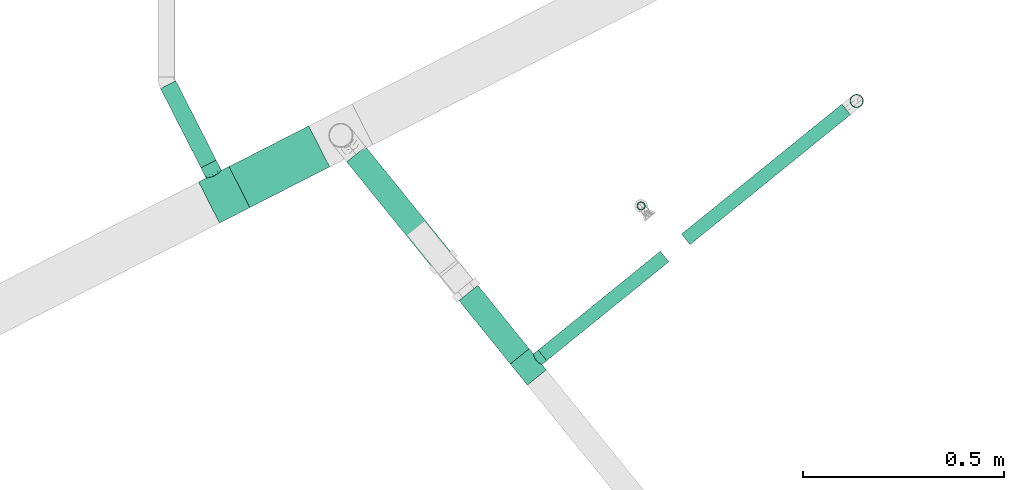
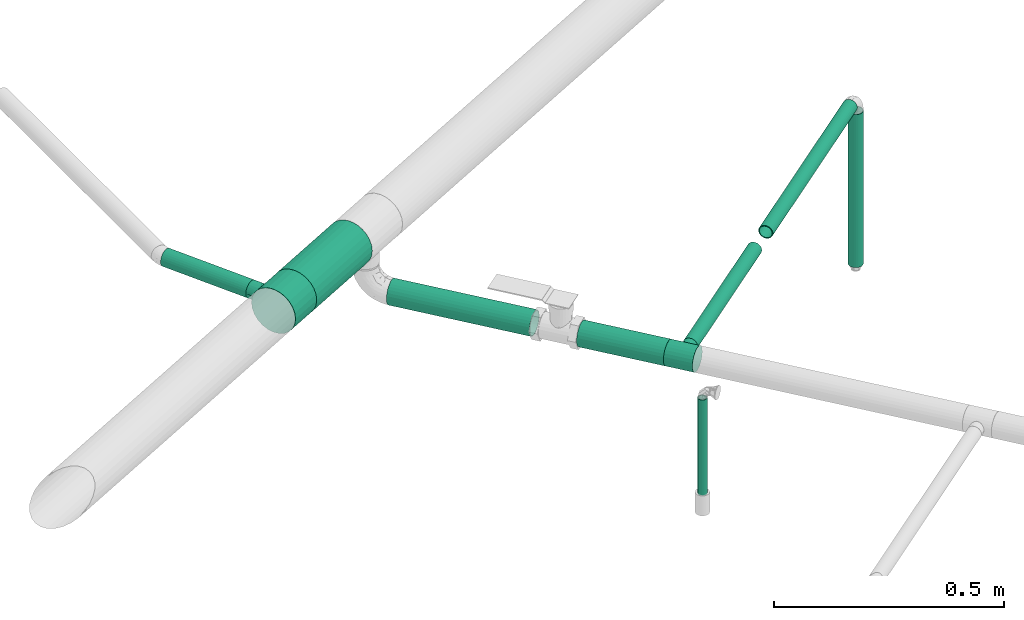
# One storey, part 20 of 94: 8 flow segments, 2 flow fittings.
"""IFC2X3 building model written with IfcOpenShell, lengths in millimetres."""

from ifc_helpers import new_model, entity, si_unit, converted_unit, derived_unit, direction, frame, origin_with_axes, origin_2d_with_axis, place, context, subcontext, project, spatial, hollow_circle, extrude, open_shell, surface_model, source, transform, mapped, type_object, element, save


model = new_model("IFC2X3")

# Units and contexts
model_context = context("Model", 3, precision=0.01, world=frame((0.0, 4.29681676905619e-09, 0.0)), true_north=direction((4.01073788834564e-13, 1.0)))
plan_context = context("Plan", 3, precision=0.01, world=frame((0.0, 4.29681676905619e-09, 0.0)), true_north=direction((4.01073788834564e-13, 1.0)))
body_context = subcontext(model_context, "Body", "Model", "MODEL_VIEW")
ifc_project = project(units=[converted_unit("PLANEANGLEUNIT", "DEGREE", entity("IfcPositiveLengthMeasure", 0.0174532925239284), si_unit("PLANEANGLEUNIT", "RADIAN"), dimensions=[0, 0, 0, 0, 0, 0, 0]), si_unit("AREAUNIT", "SQUARE_METRE"), si_unit("LENGTHUNIT", "METRE", prefix="MILLI"), si_unit("MASSUNIT", "GRAM", prefix="KILO"), si_unit("POWERUNIT", "WATT"), si_unit("PRESSUREUNIT", "PASCAL", prefix="KILO"), si_unit("FORCEUNIT", "NEWTON", prefix="KILO"), si_unit("ELECTRICVOLTAGEUNIT", "VOLT"), si_unit("ELECTRICCURRENTUNIT", "AMPERE"), si_unit("THERMODYNAMICTEMPERATUREUNIT", "DEGREE_CELSIUS"), si_unit("TIMEUNIT", "SECOND"), si_unit("VOLUMEUNIT", "CUBIC_METRE"), derived_unit("LINEARVELOCITYUNIT", [(si_unit("LENGTHUNIT", "METRE"), 1), (si_unit("TIMEUNIT", "SECOND"), -1)]), derived_unit("VOLUMETRICFLOWRATEUNIT", [(si_unit("VOLUMEUNIT", "CUBIC_METRE"), 1), (si_unit("TIMEUNIT", "SECOND"), -1)]), derived_unit("THERMALTRANSMITTANCEUNIT", [(si_unit("POWERUNIT", "WATT"), 1), (si_unit("THERMODYNAMICTEMPERATUREUNIT", "KELVIN"), -1), (si_unit("AREAUNIT", "SQUARE_METRE"), -1)]), derived_unit("SOUNDPRESSUREUNIT", [(si_unit("PRESSUREUNIT", "PASCAL"), 1)])], contexts=[model_context, plan_context])

# Site, building, storey
site_placement = place(None, frame((0.0, -4.29681676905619e-09, 0.0), z_axis=(0.0, 0.0, 1.0), x_axis=(1.0, 0.0, 0.0)))
site = spatial("IfcSite", under=ifc_project, at=site_placement, CompositionType="ELEMENT")
building_placement = place(site_placement, frame((0.0, 4.29681676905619e-09, 0.0), z_axis=(0.0, 0.0, 1.0), x_axis=(1.0, 0.0, 0.0)))
building = spatial("IfcBuilding", under=site, at=building_placement, Name="mc-building", CompositionType="ELEMENT")
storey_placement = place(building_placement, frame((0.0, 0.0, 210900.0), z_axis=(0.0, 0.0, 1.0), x_axis=(1.0, 0.0, 0.0)))
storey = spatial("IfcBuildingStorey", under=building, at=storey_placement, Name="Nivå F", CompositionType="ELEMENT", Elevation=210900.0)

# Flow fittings
pipe_fitting_type = type_object("IfcPipeFittingType", Name="magi_pipe_fe_tee_centric_90_NOR", PredefinedType="JUNCTION")
shared_shape_1 = source(origin_with_axes(), body_context, "Body", "SurfaceModel", [
    surface_model("IfcShellBasedSurfaceModel", [(-33.8, 15.1, -26.15397), (-33.8, 7.81634, -29.17096), (-33.8, 0.0, -30.2), (-33.8, 29.17096, -7.81634), (-33.8, 26.15397, -15.1), (-33.8, 21.35462, -21.35462), (-33.8, 30.2, 0.0), (-33.8, -30.2, 0.0), (-33.8, -15.1, -26.15397), (-33.8, -21.35462, -21.35462), (-33.8, -7.81634, -29.17096), (-33.8, -26.15397, -15.1), (-33.8, -29.17096, -7.81634), (-33.8, 26.15397, 15.1), (-33.8, 29.17096, 7.81634), (-33.8, 15.1, 26.15397), (-33.8, -21.35462, 21.35462), (-33.8, 21.35462, 21.35462), (-33.8, 7.81634, 29.17096), (-33.8, -29.17096, 7.81634), (-33.8, -26.15397, 15.1), (-33.8, -7.81634, 29.17096), (-33.8, 0.0, 30.2), (-33.8, -15.1, 26.15397), (33.8, 29.17096, -7.81634), (33.8, 0.0, -30.2), (33.8, 7.81634, -29.17096), (33.8, 21.35462, -21.35462), (33.8, 15.1, -26.15397), (33.8, 26.15397, -15.1), (33.8, -30.2, 0.0), (33.8, -7.81634, -29.17096), (33.8, -21.35462, -21.35462), (33.8, -15.1, -26.15397), (33.8, -29.17096, -7.81634), (33.8, -26.15397, -15.1), (33.8, 30.2, 0.0), (33.8, 29.17096, 7.81634), (33.8, 26.15397, 15.1), (33.8, -29.17096, 7.81634), (33.8, 15.1, 26.15397), (33.8, 7.81634, 29.17096), (33.8, 21.35462, 21.35462), (33.8, -21.35462, 21.35462), (33.8, -26.15397, 15.1), (33.8, -15.1, 26.15397), (33.8, 0.0, 30.2), (33.8, -7.81634, 29.17096), (33.8, -29.68548, 3.90817), (15.846, -29.62306, 5.87488), (16.373, -29.91153, 2.93744), (12.91037, -28.16217, 10.90561), (2.99213, -25.2068, 16.63301), (16.9, -30.2, 0.0), (33.8, -27.66246, 11.45817), (8.50854, -26.43531, 14.60187), (-8.51006, -26.43579, 14.60099), (-33.8, -27.66246, 11.45817), (-12.91447, -28.16405, 10.90075), (-15.84655, -29.62335, 5.87341), (-33.8, -29.68548, 3.90817), (-16.37327, -29.91168, 2.93671), (-16.9, -30.2, 0.0), (-2.99705, -25.20739, 16.63213), (2.99213, -25.2068, -16.63301), (-16.37327, -29.91168, -2.93671), (8.50854, -26.43531, -14.60187), (33.8, -27.66246, -11.45817), (16.373, -29.91153, -2.93744), (-33.8, -29.68548, -3.90817), (-15.84655, -29.62335, -5.87341), (15.846, -29.62306, -5.87488), (12.91037, -28.16217, -10.90561), (33.8, -29.68548, -3.90817), (-2.99705, -25.20739, -16.63213), (-8.51006, -26.43579, -14.60099), (-12.91447, -28.16405, -10.90075), (-33.8, -27.66246, -11.45817), (4.37404, -45.3, -16.32415), (-16.9, -45.3, 0.0), (0.0, -45.3, -16.9), (14.63583, -45.3, -8.45), (8.45, -45.3, -14.63583), (16.32415, -45.3, -4.37404), (11.9501, -45.3, -11.9501), (-11.9501, -45.3, -11.9501), (-8.45, -45.3, -14.63583), (-4.37404, -45.3, -16.32415), (-14.63583, -45.3, -8.45), (-16.32415, -45.3, -4.37404), (16.9, -45.3, 0.0), (8.45, -45.3, 14.63583), (16.32415, -45.3, 4.37404), (14.63583, -45.3, 8.45), (-8.45, -45.3, 14.63583), (11.9501, -45.3, 11.9501), (4.37404, -45.3, 16.32415), (-16.32415, -45.3, 4.37404), (-11.9501, -45.3, 11.9501), (-14.63583, -45.3, 8.45), (0.0, -45.3, 16.9), (-4.37404, -45.3, 16.32415), (-5.75355, -25.82159, 15.61656), (-0.00246, -25.20709, 16.63257), (5.75034, -25.82105, 15.61744), (5.75034, -25.82105, -15.61744), (-0.00246, -25.20709, -16.63257), (-5.75355, -25.82159, -15.61656)], [open_shell([[[0, 1, 2]], [[3, 0, 2]], [[0, 3, 4]], [[5, 0, 4]], [[6, 2, 7]], [[8, 9, 10]], [[9, 2, 10]], [[11, 12, 9]], [[7, 9, 12]], [[9, 7, 2]], [[6, 3, 2]], [[13, 14, 6]], [[7, 15, 13]], [[7, 16, 15]], [[17, 13, 15]], [[18, 15, 16]], [[19, 20, 7]], [[7, 20, 16]], [[21, 22, 23]], [[16, 23, 22]], [[16, 22, 18]], [[7, 13, 6]], [[24, 25, 26]], [[27, 26, 28]], [[29, 24, 26]], [[29, 26, 27]], [[25, 24, 30]], [[31, 32, 33]], [[32, 31, 34]], [[32, 34, 35]], [[34, 31, 30]], [[31, 25, 30]], [[24, 36, 30]], [[36, 37, 38]], [[39, 36, 38]], [[40, 41, 38]], [[40, 38, 42]], [[43, 38, 41]], [[39, 43, 44]], [[39, 38, 43]], [[45, 46, 47]], [[46, 45, 43]], [[41, 46, 43]], [[36, 39, 30]], [[48, 39, 49]], [[30, 48, 50]], [[39, 51, 49]], [[44, 43, 52]], [[30, 50, 53]], [[51, 54, 55]], [[52, 55, 44]], [[48, 49, 50]], [[43, 16, 52]], [[55, 54, 44]], [[56, 57, 58]], [[59, 60, 61]], [[62, 61, 7]], [[59, 58, 19]], [[56, 63, 20]], [[51, 39, 54]], [[20, 57, 56]], [[20, 63, 16]], [[58, 57, 19]], [[63, 52, 16]], [[7, 61, 60]], [[59, 19, 60]], [[43, 23, 16]], [[22, 47, 46]], [[21, 45, 47]], [[18, 46, 41]], [[38, 37, 14]], [[17, 40, 42]], [[13, 42, 38]], [[41, 40, 15]], [[6, 37, 36]], [[23, 45, 21]], [[21, 47, 22]], [[18, 22, 46]], [[41, 15, 18]], [[15, 40, 17]], [[13, 17, 42]], [[14, 13, 38]], [[37, 6, 14]], [[45, 23, 43]], [[4, 24, 29]], [[3, 36, 24]], [[5, 29, 27]], [[25, 31, 10]], [[1, 28, 26]], [[2, 26, 25]], [[27, 28, 0]], [[8, 31, 33]], [[6, 36, 3]], [[3, 24, 4]], [[5, 4, 29]], [[27, 0, 5]], [[0, 28, 1]], [[2, 1, 26]], [[10, 2, 25]], [[31, 8, 10]], [[33, 9, 8]], [[32, 35, 64]], [[7, 65, 62]], [[66, 64, 35]], [[67, 66, 35]], [[32, 64, 9]], [[53, 68, 30]], [[69, 70, 65]], [[71, 72, 34]], [[71, 73, 68]], [[66, 67, 72]], [[34, 72, 67]], [[74, 75, 11]], [[76, 12, 77]], [[11, 9, 74]], [[76, 77, 75]], [[74, 9, 64]], [[76, 70, 12]], [[71, 34, 73]], [[70, 69, 12]], [[65, 7, 69]], [[30, 68, 73]], [[77, 11, 75]], [[32, 9, 33]], [[78, 79, 80]], [[81, 78, 82]], [[81, 83, 78]], [[81, 82, 84]], [[79, 78, 83]], [[80, 85, 86]], [[86, 87, 80]], [[88, 79, 89]], [[85, 80, 88]], [[79, 88, 80]], [[83, 90, 79]], [[91, 90, 92]], [[91, 92, 93]], [[94, 79, 91]], [[91, 93, 95]], [[94, 91, 96]], [[97, 98, 99]], [[98, 97, 94]], [[94, 100, 101]], [[97, 79, 94]], [[96, 100, 94]], [[91, 79, 90]], [[97, 61, 79]], [[58, 99, 98]], [[97, 99, 59]], [[98, 94, 56]], [[61, 62, 79]], [[59, 99, 58]], [[101, 63, 102]], [[56, 58, 98]], [[100, 52, 103]], [[91, 104, 96]], [[100, 96, 52]], [[50, 49, 92]], [[50, 90, 53]], [[104, 91, 55]], [[102, 94, 101]], [[102, 56, 94]], [[100, 63, 101]], [[97, 59, 61]], [[55, 91, 95]], [[95, 51, 55]], [[52, 96, 104]], [[92, 49, 93]], [[90, 50, 92]], [[93, 49, 51]], [[93, 51, 95]], [[103, 63, 100]], [[83, 68, 90]], [[72, 81, 84]], [[83, 81, 71]], [[84, 82, 66]], [[68, 53, 90]], [[71, 81, 72]], [[78, 64, 105]], [[66, 72, 84]], [[80, 74, 106]], [[86, 107, 87]], [[65, 70, 89]], [[105, 82, 78]], [[105, 66, 82]], [[75, 86, 85]], [[83, 71, 68]], [[70, 88, 89]], [[65, 79, 62]], [[85, 88, 76]], [[80, 64, 78]], [[87, 107, 74]], [[74, 80, 87]], [[75, 107, 86]], [[75, 85, 76]], [[76, 88, 70]], [[79, 65, 89]], [[106, 64, 80]]])]),
])
flow_fitting_1_placement = place(storey_placement, frame((724719.65026, 444800.56467, 3500.0), z_axis=(0.0, 0.0, 1.0), x_axis=(-0.629320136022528, 0.777146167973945, 0.0)))
element("IfcFlowFitting", 1, at=flow_fitting_1_placement, inside=storey, type_object=pipe_fitting_type, Name="magi_pipe_fe_tee_centric_90_NOR", context=body_context, shape_type="MappedRepresentation", body=[
    mapped(shared_shape_1, transform((0.0, 0.0, 0.0), scale=1.0)),
])
shared_shape_2 = source(origin_with_axes(), body_context, "Body", "SurfaceModel", [
    surface_model("IfcShellBasedSurfaceModel", [(-42.4, 0.0, -57.2), (-42.4, -14.80445, -55.25096), (-42.4, 14.80445, -55.25096), (-42.4, 28.6, -49.53665), (-42.4, 40.44651, -40.44651), (-42.4, 55.25096, -14.80445), (-42.4, 49.53665, -28.6), (-42.4, -28.6, -49.53665), (-42.4, -40.44651, -40.44651), (-42.4, -49.53665, -28.6), (-42.4, -55.25096, -14.80445), (-42.4, -57.2, 0.0), (-42.4, -28.6, 49.53665), (-42.4, 49.53665, 28.6), (-42.4, 55.25096, 14.80445), (-42.4, 57.2, 0.0), (-42.4, 40.44651, 40.44651), (-42.4, 14.80445, 55.25096), (-42.4, 28.6, 49.53665), (-42.4, 0.0, 57.2), (-42.4, -55.25096, 14.80445), (-42.4, -49.53665, 28.6), (-42.4, -40.44651, 40.44651), (-42.4, -14.80445, 55.25096), (42.4, 14.80445, -55.25096), (42.4, -14.80445, -55.25096), (42.4, 0.0, -57.2), (42.4, 40.44651, -40.44651), (42.4, 28.6, -49.53665), (42.4, 49.53665, -28.6), (42.4, 55.25096, -14.80445), (42.4, -40.44651, -40.44651), (42.4, -28.6, -49.53665), (42.4, -49.53665, -28.6), (42.4, -55.25096, -14.80445), (42.4, -57.2, 0.0), (42.4, -28.6, 49.53665), (42.4, 57.2, 0.0), (42.4, 55.25096, 14.80445), (42.4, 49.53665, 28.6), (42.4, 0.0, 57.2), (42.4, 28.6, 49.53665), (42.4, 40.44651, 40.44651), (42.4, 14.80445, 55.25096), (42.4, -49.53665, 28.6), (42.4, -55.25096, 14.80445), (42.4, -40.44651, 40.44651), (42.4, -14.80445, 55.25096), (42.4, -56.22548, 7.40222), (21.2, -57.2, 0.0), (16.22454, -55.5485, 13.64567), (19.90462, -56.73265, 7.29699), (3.70812, -53.25552, 20.87319), (10.63496, -54.18028, 18.33951), (-16.23029, -55.55018, 13.63883), (-42.4, -56.22548, 7.40222), (-19.90518, -56.73285, 7.29545), (-21.2, -57.2, 0.0), (-10.63671, -54.18062, 18.33849), (-3.71383, -53.25592, 20.87217), (-42.4, -56.22548, -7.40222), (-19.90518, -56.73285, -7.29545), (16.22454, -55.5485, -13.64567), (42.4, -56.22548, -7.40222), (19.90462, -56.73265, -7.29699), (10.63496, -54.18028, -18.33951), (3.70812, -53.25552, -20.87319), (-3.71383, -53.25592, -20.87217), (-10.63671, -54.18062, -18.33849), (-16.23029, -55.55018, -13.63883), (14.99066, -85.8, -14.99066), (0.0, -85.8, -21.2), (5.48696, -85.8, -20.47763), (10.6, -85.8, -18.35974), (18.35974, -85.8, -10.6), (20.47763, -85.8, -5.48696), (-21.2, -85.8, 0.0), (-10.6, -85.8, 18.35974), (-5.48696, -85.8, -20.47763), (-14.99066, -85.8, -14.99066), (-10.6, -85.8, -18.35974), (-18.35974, -85.8, -10.6), (-20.47763, -85.8, -5.48696), (20.47763, -85.8, 5.48696), (18.35974, -85.8, 10.6), (10.6, -85.8, 18.35974), (14.99066, -85.8, 14.99066), (0.0, -85.8, 21.2), (5.48696, -85.8, 20.47763), (-14.99066, -85.8, 14.99066), (-18.35974, -85.8, 10.6), (-20.47763, -85.8, 5.48696), (-5.48696, -85.8, 20.47763), (21.2, -85.8, 0.0), (-20.55259, -56.96643, 3.64772), (-7.17527, -53.71827, 19.60533), (7.17154, -53.7179, 19.60635), (20.55231, -56.96633, 3.64849), (-0.00286, -53.25572, 20.87268), (20.55231, -56.96633, -3.64849), (7.17154, -53.7179, -19.60635), (-0.00286, -53.25572, -20.87268), (-7.17527, -53.71827, -19.60533), (-20.55259, -56.96643, -3.64772)], [open_shell([[[0, 1, 2]], [[3, 2, 4]], [[5, 6, 4]], [[2, 5, 4]], [[5, 2, 1]], [[7, 8, 1]], [[9, 1, 8]], [[10, 11, 9]], [[1, 9, 11]], [[12, 1, 11]], [[12, 5, 1]], [[13, 14, 15]], [[16, 13, 15]], [[17, 18, 16]], [[15, 17, 16]], [[19, 17, 15]], [[20, 21, 11]], [[21, 22, 11]], [[23, 19, 12]], [[22, 12, 11]], [[12, 19, 15]], [[15, 5, 12]], [[24, 25, 26]], [[27, 24, 28]], [[27, 29, 30]], [[27, 30, 24]], [[25, 24, 30]], [[25, 31, 32]], [[25, 30, 31]], [[30, 33, 31]], [[30, 34, 33]], [[35, 34, 30]], [[30, 36, 35]], [[37, 38, 39]], [[30, 39, 36]], [[40, 39, 41]], [[41, 39, 42]], [[40, 41, 43]], [[35, 44, 45]], [[46, 44, 35]], [[36, 40, 47]], [[35, 36, 46]], [[39, 40, 36]], [[37, 39, 30]], [[35, 48, 49]], [[50, 51, 48]], [[48, 45, 50]], [[52, 44, 21]], [[44, 53, 45]], [[53, 44, 52]], [[45, 53, 50]], [[44, 46, 22]], [[54, 55, 56]], [[57, 55, 11]], [[57, 56, 55]], [[54, 20, 55]], [[58, 59, 21]], [[58, 21, 20]], [[59, 52, 21]], [[44, 22, 21]], [[58, 20, 54]], [[49, 48, 51]], [[46, 12, 22]], [[19, 47, 40]], [[23, 36, 47]], [[17, 40, 43]], [[39, 38, 14]], [[16, 41, 42]], [[13, 42, 39]], [[43, 41, 18]], [[15, 38, 37]], [[12, 36, 23]], [[23, 47, 19]], [[17, 19, 40]], [[43, 18, 17]], [[18, 41, 16]], [[13, 16, 42]], [[14, 13, 39]], [[38, 15, 14]], [[36, 12, 46]], [[15, 37, 30]], [[30, 29, 5]], [[27, 6, 29]], [[1, 26, 25]], [[2, 28, 24]], [[26, 0, 24]], [[28, 4, 27]], [[32, 7, 25]], [[57, 60, 61]], [[6, 5, 29]], [[15, 30, 5]], [[27, 4, 6]], [[4, 28, 3]], [[3, 28, 2]], [[0, 2, 24]], [[1, 0, 26]], [[25, 7, 1]], [[32, 8, 7]], [[9, 31, 33]], [[62, 63, 64]], [[65, 66, 33]], [[33, 34, 65]], [[9, 33, 66]], [[35, 49, 63]], [[62, 34, 63]], [[64, 63, 49]], [[34, 62, 65]], [[67, 68, 9]], [[8, 31, 9]], [[68, 10, 9]], [[9, 66, 67]], [[61, 60, 69]], [[60, 10, 69]], [[60, 57, 11]], [[69, 10, 68]], [[31, 8, 32]], [[70, 71, 72]], [[70, 72, 73]], [[70, 74, 75]], [[70, 75, 71]], [[76, 71, 77]], [[78, 79, 80]], [[78, 71, 79]], [[81, 76, 82]], [[79, 71, 81]], [[71, 76, 81]], [[71, 75, 77]], [[83, 84, 75]], [[84, 85, 75]], [[85, 77, 75]], [[85, 84, 86]], [[87, 85, 88]], [[76, 89, 90]], [[91, 76, 90]], [[77, 87, 92]], [[77, 89, 76]], [[85, 87, 77]], [[75, 93, 83]], [[91, 94, 76]], [[87, 59, 92]], [[95, 77, 92]], [[95, 58, 77]], [[85, 96, 88]], [[91, 56, 94]], [[97, 93, 49]], [[56, 91, 90]], [[94, 57, 76]], [[56, 90, 54]], [[77, 58, 89]], [[92, 59, 95]], [[89, 58, 54]], [[89, 54, 90]], [[87, 52, 98]], [[85, 53, 96]], [[86, 53, 85]], [[51, 84, 83]], [[86, 84, 50]], [[52, 87, 88]], [[96, 52, 88]], [[98, 59, 87]], [[53, 86, 50]], [[50, 84, 51]], [[93, 97, 83]], [[97, 51, 83]], [[75, 99, 93]], [[70, 62, 74]], [[100, 65, 73]], [[75, 64, 99]], [[74, 64, 75]], [[65, 70, 73]], [[99, 49, 93]], [[64, 74, 62]], [[72, 66, 100]], [[65, 62, 70]], [[71, 67, 101]], [[80, 102, 78]], [[103, 76, 57]], [[102, 80, 68]], [[100, 73, 72]], [[103, 61, 82]], [[79, 68, 80]], [[61, 81, 82]], [[69, 79, 81]], [[67, 71, 78]], [[102, 67, 78]], [[101, 66, 71]], [[68, 79, 69]], [[69, 81, 61]], [[76, 103, 82]], [[71, 66, 72]]])]),
])
flow_fitting_2_placement = place(storey_placement, frame((723964.05272, 445228.24569, 3650.0), z_axis=(0.0, 0.0, 1.0), x_axis=(-0.891006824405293, -0.453989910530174, 0.0)))
element("IfcFlowFitting", 2, at=flow_fitting_2_placement, inside=storey, type_object=pipe_fitting_type, Name="magi_pipe_fe_tee_centric_90_NOR", context=body_context, shape_type="MappedRepresentation", body=[
    mapped(shared_shape_2, transform((0.0, 0.0, 0.0), scale=1.0)),
])

# Flow segments
pipe_segment_type = type_object("IfcPipeSegmentType", Name="Stålrør normaltykke", PredefinedType="RIGIDSEGMENT")
shared_shape_3 = source(origin_with_axes(), body_context, "Body", "SweptSolid", [
    extrude(hollow_circle(Radius=57.1, WallThickness=2.0, at=origin_2d_with_axis()), frame((0.0, 0.0, 0.0), z_axis=(1.0, 0.0, 0.0), x_axis=(0.0, 1.0, 0.0)), (0.0, 0.0, 1.0), 222.4),
])
flow_segment_1_placement = place(storey_placement, frame((724001.83139, 445247.49489, 3650.0), z_axis=(0.0, 0.0, 1.0), x_axis=(0.891006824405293, 0.453989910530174, 0.0)))
element("IfcFlowSegment", 3, at=flow_segment_1_placement, inside=storey, type_object=pipe_segment_type, Name="Stålrør normaltykke", context=body_context, shape_type="MappedRepresentation", body=[
    mapped(shared_shape_3, transform((0.0, 0.0, 0.0), scale=1.0)),
])
shared_shape_4 = source(origin_with_axes(), body_context, "Body", "SweptSolid", [
    extrude(hollow_circle(Radius=21.2, WallThickness=2.0, at=origin_2d_with_axis()), frame((0.0, 0.0, 0.0), z_axis=(1.0, 0.0, 0.0), x_axis=(0.0, 1.0, 0.0)), (0.0, 0.0, 1.0), 221.2),
])
flow_segment_2_placement = place(storey_placement, frame((723925.10033, 445304.69405, 3650.0), z_axis=(0.0, 0.0, 1.0), x_axis=(-0.453989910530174, 0.891006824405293, 0.0)))
element("IfcFlowSegment", 4, at=flow_segment_2_placement, inside=storey, type_object=pipe_segment_type, Name="Stålrør normaltykke", context=body_context, shape_type="MappedRepresentation", body=[
    mapped(shared_shape_4, transform((0.0, 0.0, 0.0), scale=1.0)),
])
shared_shape_5 = source(origin_with_axes(), body_context, "Body", "SweptSolid", [
    extrude(hollow_circle(Radius=16.9, WallThickness=2.0, at=origin_2d_with_axis()), frame((0.0, 0.0, 0.0), z_axis=(1.0, 0.0, 0.0), x_axis=(0.0, 1.0, 0.0)), (0.0, 0.0, 1.0), 512.9),
])
flow_segment_3_placement = place(storey_placement, frame((725110.93236, 445117.41867, 3500.0), z_axis=(0.0, 0.0, 1.0), x_axis=(0.777146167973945, 0.629320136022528, 0.0)))
element("IfcFlowSegment", 5, at=flow_segment_3_placement, inside=storey, type_object=pipe_segment_type, Name="Stålrør normaltykke", context=body_context, shape_type="MappedRepresentation", body=[
    mapped(shared_shape_5, transform((0.0, 0.0, 0.0), scale=1.0)),
])
shared_shape_6 = source(origin_with_axes(), body_context, "Body", "SweptSolid", [
    extrude(hollow_circle(Radius=30.1, WallThickness=2.0, at=origin_2d_with_axis()), frame((0.0, 0.0, 0.0), z_axis=(1.0, 0.0, 0.0), x_axis=(0.0, 1.0, 0.0)), (0.0, 0.0, 1.0), 202.5),
])
flow_segment_4_placement = place(storey_placement, frame((724570.93953, 444984.20714, 3500.0), z_axis=(0.0, 0.0, 1.0), x_axis=(0.629320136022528, -0.777146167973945, 0.0)))
element("IfcFlowSegment", 6, at=flow_segment_4_placement, inside=storey, type_object=pipe_segment_type, Name="Stålrør normaltykke", context=body_context, shape_type="MappedRepresentation", body=[
    mapped(shared_shape_6, transform((0.0, 0.0, 0.0), scale=1.0)),
])
shared_shape_7 = source(origin_with_axes(), body_context, "Body", "SweptSolid", [
    extrude(hollow_circle(Radius=16.9, WallThickness=2.0, at=origin_2d_with_axis()), frame((0.0, 0.0, 0.0), z_axis=(1.0, 0.0, 0.0), x_axis=(0.0, 1.0, 0.0)), (0.0, 0.0, 1.0), 406.8),
])
flow_segment_5_placement = place(storey_placement, frame((725535.77009, 445461.44548, 3466.20000000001), z_axis=(-1.0, 0.0, 0.0), x_axis=(0.0, 0.0, -1.0)))
element("IfcFlowSegment", 7, at=flow_segment_5_placement, inside=storey, type_object=pipe_segment_type, Name="Stålrør normaltykke", context=body_context, shape_type="MappedRepresentation", body=[
    mapped(shared_shape_7, transform((0.0, 0.0, 0.0), scale=1.0)),
])
shared_shape_8 = source(origin_with_axes(), body_context, "Body", "SweptSolid", [
    extrude(hollow_circle(Radius=30.1, WallThickness=2.0, at=origin_2d_with_axis()), frame((0.0, 0.0, 0.0), z_axis=(1.0, 0.0, 0.0), x_axis=(0.0, 1.0, 0.0)), (0.0, 0.0, 1.0), 333.6),
])
flow_segment_6_placement = place(storey_placement, frame((724291.78947, 445328.92874, 3500.0), z_axis=(0.0, 0.0, 1.0), x_axis=(0.629320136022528, -0.777146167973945, 0.0)))
element("IfcFlowSegment", 8, at=flow_segment_6_placement, inside=storey, type_object=pipe_segment_type, Name="Stålrør normaltykke", context=body_context, shape_type="MappedRepresentation", body=[
    mapped(shared_shape_8, transform((0.0, 0.0, 0.0), scale=1.0)),
])
shared_shape_9 = source(origin_with_axes(), body_context, "Body", "SweptSolid", [
    extrude(hollow_circle(Radius=10.7, WallThickness=2.0, at=origin_2d_with_axis()), frame((0.0, 0.0, 0.0), z_axis=(1.0, 0.0, 0.0), x_axis=(0.0, 1.0, 0.0)), (0.0, 0.0, 1.0), 254.1),
])
flow_segment_7_placement = place(storey_placement, frame((725000.0, 445200.7, 2794.49074000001), z_axis=(0.0, 1.0, 0.0), x_axis=(0.0, 0.0, 1.0)))
element("IfcFlowSegment", 9, at=flow_segment_7_placement, inside=storey, type_object=pipe_segment_type, Name="Stålrør normaltykke", context=body_context, shape_type="MappedRepresentation", body=[
    mapped(shared_shape_9, transform((0.0, 0.0, 0.0), scale=1.0)),
])
shared_shape_10 = source(origin_with_axes(), body_context, "Body", "SweptSolid", [
    extrude(hollow_circle(Radius=16.9, WallThickness=2.0, at=origin_2d_with_axis()), frame((0.0, 0.0, 0.0), z_axis=(1.0, 0.0, 0.0), x_axis=(0.0, 1.0, 0.0)), (0.0, 0.0, 1.0), 390.6),
])
flow_segment_8_placement = place(storey_placement, frame((724754.85497, 444829.07289, 3500.0), z_axis=(0.0, 0.0, 1.0), x_axis=(0.777146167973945, 0.629320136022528, 0.0)))
element("IfcFlowSegment", 10, at=flow_segment_8_placement, inside=storey, type_object=pipe_segment_type, Name="Stålrør normaltykke", context=body_context, shape_type="MappedRepresentation", body=[
    mapped(shared_shape_10, transform((0.0, 0.0, 0.0), scale=1.0)),
])

save(model, "model.ifc")
